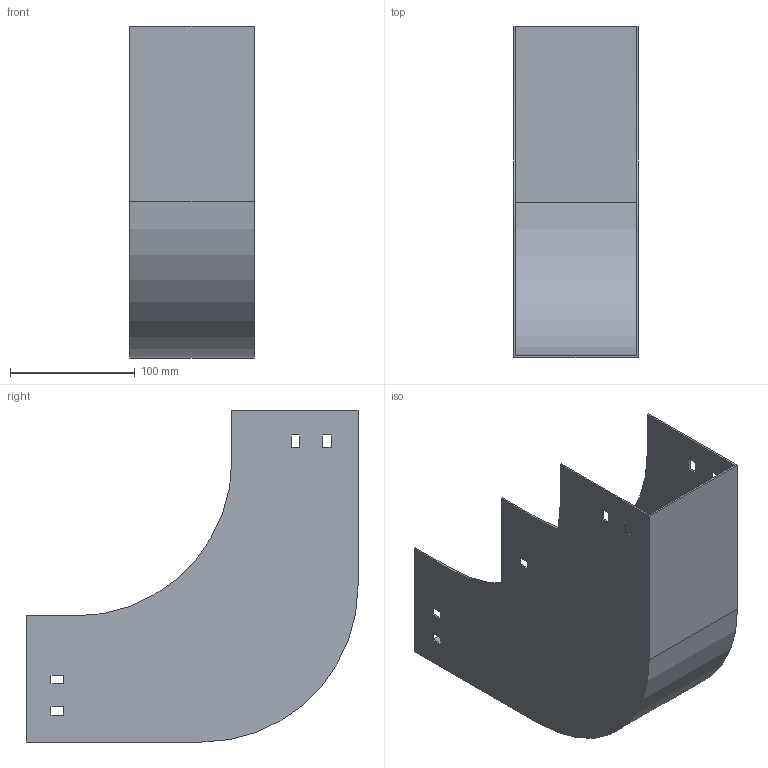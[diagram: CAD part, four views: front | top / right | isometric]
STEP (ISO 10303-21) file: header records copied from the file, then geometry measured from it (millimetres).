
FILE_DESCRIPTION (( 'STEP AP214' ), '1' );
FILE_NAME ('S9_101.step', '2025-07-16T09:27:35', ( '' ), ( '' ), 'SwSTEP 2.0', 'SolidWorks 2023', '' );
FILE_SCHEMA (( 'AUTOMOTIVE_DESIGN' ));
Length unit declared in the file: millimetre
Products named in the file (1): S9_101
Bounding box: 100 x 266 x 266 mm (x, y, z)
Volume: 199181.4 mm3; surface area: 267712.8 mm2
Topology: 1 solids, 1 shells, 50 faces, 144 edges, 96 vertices
Faces by surface type: plane 46, cylinder 4
Entity records: 1671 total; most frequent: CARTESIAN_POINT 291, ORIENTED_EDGE 288, DIRECTION 254, EDGE_CURVE 144, LINE 136, VECTOR 136, VERTEX_POINT 96, EDGE_LOOP 66
